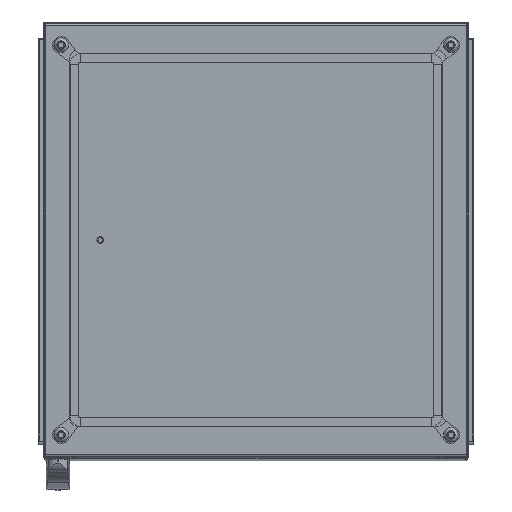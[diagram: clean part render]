
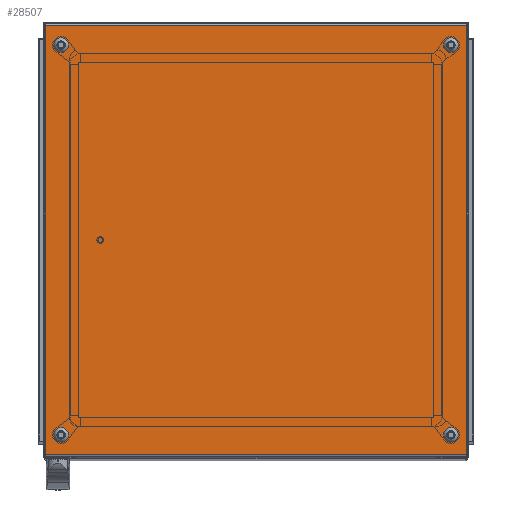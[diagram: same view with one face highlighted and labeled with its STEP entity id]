
A CAD part, top view. The second image highlights one B-rep face of the part: STEP entity #28507.
In plain terms, the highlighted planar face has unit normal (0, 0, 1).
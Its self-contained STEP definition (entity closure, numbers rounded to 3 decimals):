
#1385=CIRCLE('',#30586,6.);
#1386=CIRCLE('',#30587,6.);
#1387=CIRCLE('',#30588,6.);
#1388=CIRCLE('',#30589,6.);
#5237=ORIENTED_EDGE('',*,*,#12087,.F.);
#5238=ORIENTED_EDGE('',*,*,#12088,.F.);
#5239=ORIENTED_EDGE('',*,*,#12089,.F.);
#5240=ORIENTED_EDGE('',*,*,#12090,.F.);
#5241=ORIENTED_EDGE('',*,*,#12076,.T.);
#5242=ORIENTED_EDGE('',*,*,#12084,.T.);
#5243=ORIENTED_EDGE('',*,*,#12047,.F.);
#5244=ORIENTED_EDGE('',*,*,#12091,.F.);
#12047=EDGE_CURVE('',#15707,#15708,#18559,.T.);
#12076=EDGE_CURVE('',#15729,#15728,#18565,.T.);
#12084=EDGE_CURVE('',#15728,#15708,#18570,.T.);
#12087=EDGE_CURVE('',#15730,#15730,#1385,.T.);
#12088=EDGE_CURVE('',#15731,#15731,#1386,.T.);
#12089=EDGE_CURVE('',#15732,#15732,#1387,.T.);
#12090=EDGE_CURVE('',#15733,#15733,#1388,.T.);
#12091=EDGE_CURVE('',#15729,#15707,#18573,.T.);
#15707=VERTEX_POINT('',#44383);
#15708=VERTEX_POINT('',#44385);
#15728=VERTEX_POINT('',#44459);
#15729=VERTEX_POINT('',#44461);
#15730=VERTEX_POINT('',#44478);
#15731=VERTEX_POINT('',#44480);
#15732=VERTEX_POINT('',#44482);
#15733=VERTEX_POINT('',#44484);
#18559=LINE('',#44384,#21036);
#18565=LINE('',#44460,#21042);
#18570=LINE('',#44472,#21047);
#18573=LINE('',#44485,#21050);
#21036=VECTOR('',#35544,1000.);
#21042=VECTOR('',#35598,1000.);
#21047=VECTOR('',#35615,1000.);
#21050=VECTOR('',#35630,1000.);
#23211=EDGE_LOOP('',(#5237));
#23212=EDGE_LOOP('',(#5238));
#23213=EDGE_LOOP('',(#5239));
#23214=EDGE_LOOP('',(#5240));
#23215=EDGE_LOOP('',(#5241,#5242,#5243,#5244));
#25558=FACE_BOUND('',#23211,.T.);
#25559=FACE_BOUND('',#23212,.T.);
#25560=FACE_BOUND('',#23213,.T.);
#25561=FACE_BOUND('',#23214,.T.);
#25562=FACE_BOUND('',#23215,.T.);
#27562=PLANE('',#30585);
#28507=ADVANCED_FACE('',(#25558,#25559,#25560,#25561,#25562),#27562,.T.);
#30585=AXIS2_PLACEMENT_3D('',#44476,#35620,#35621);
#30586=AXIS2_PLACEMENT_3D('',#44477,#35622,#35623);
#30587=AXIS2_PLACEMENT_3D('',#44479,#35624,#35625);
#30588=AXIS2_PLACEMENT_3D('',#44481,#35626,#35627);
#30589=AXIS2_PLACEMENT_3D('',#44483,#35628,#35629);
#35544=DIRECTION('',(-1.,0.,0.));
#35598=DIRECTION('',(-1.,0.,0.));
#35615=DIRECTION('',(0.,-1.,0.));
#35620=DIRECTION('',(0.,0.,1.));
#35621=DIRECTION('',(1.,0.,0.));
#35622=DIRECTION('',(0.,0.,1.));
#35623=DIRECTION('',(1.,0.,0.));
#35624=DIRECTION('',(0.,0.,1.));
#35625=DIRECTION('',(1.,0.,0.));
#35626=DIRECTION('',(0.,0.,1.));
#35627=DIRECTION('',(1.,0.,0.));
#35628=DIRECTION('',(0.,0.,1.));
#35629=DIRECTION('',(1.,0.,0.));
#35630=DIRECTION('',(0.,-1.,0.));
#44383=CARTESIAN_POINT('',(296.5,-302.5,20.));
#44384=CARTESIAN_POINT('',(300.,-302.5,20.));
#44385=CARTESIAN_POINT('',(-296.5,-302.5,20.));
#44459=CARTESIAN_POINT('',(-296.5,302.5,20.));
#44460=CARTESIAN_POINT('',(300.,302.5,20.));
#44461=CARTESIAN_POINT('',(296.5,302.5,20.));
#44472=CARTESIAN_POINT('',(-296.5,305.5,20.));
#44476=CARTESIAN_POINT('',(-296.5,-302.5,20.));
#44477=CARTESIAN_POINT('',(274.5,-274.5,20.));
#44478=CARTESIAN_POINT('',(280.5,-274.5,20.));
#44479=CARTESIAN_POINT('',(-274.5,274.5,20.));
#44480=CARTESIAN_POINT('',(-268.5,274.5,20.));
#44481=CARTESIAN_POINT('',(274.5,274.5,20.));
#44482=CARTESIAN_POINT('',(280.5,274.5,20.));
#44483=CARTESIAN_POINT('',(-274.5,-274.5,20.));
#44484=CARTESIAN_POINT('',(-268.5,-274.5,20.));
#44485=CARTESIAN_POINT('',(296.5,305.5,20.));
